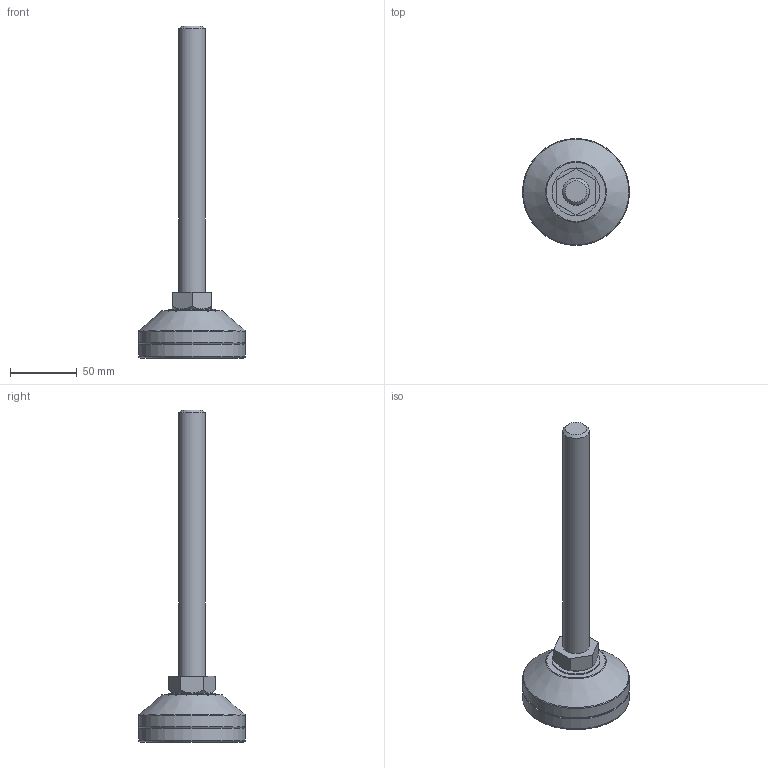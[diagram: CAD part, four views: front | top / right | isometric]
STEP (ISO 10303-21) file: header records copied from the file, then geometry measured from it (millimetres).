
FILE_DESCRIPTION(/* description */ (''),/* implementation_level */ '2;1');
FILE_NAME(/* name */ 'D:\조절자\FR\FR-M20-200L.stp',/* time_stamp */ '2016-03-14T14:36:41+09:00',/* author */ ('GS-DT-1-001'),/* organization */ (''),/* preprocessor_version */ 'ST-DEVELOPER v15.6',/* originating_system */ 'Autodesk Inventor LT ',/* authorisation */ '');
FILE_SCHEMA (('AUTOMOTIVE_DESIGN { 1 0 10303 214 3 1 1 }'));
Length unit declared in the file: millimetre
Products named in the file (1): FR-M20-200L
Bounding box: 80.4 x 80.4 x 249.5 mm (x, y, z)
Volume: 214725 mm3; surface area: 50765.6 mm2
Topology: 5 solids, 5 shells, 68 faces, 118 edges, 72 vertices
Faces by surface type: plane 28, torus 15, cylinder 15, cone 10
Full cylindrical faces by diameter (mm): 6.912 x1, 8 x1, 8.2 x1, 8.3 x1, 16 x1, 20 x1, 30 x1, 36 x1, 50 x1, 57 x1, 61 x1, 71 x1, 75 x1, 80 x1, 80.4 x1
Entity records: 1424 total; most frequent: DIRECTION 266, CARTESIAN_POINT 227, ORIENTED_EDGE 152, AXIS2_PLACEMENT_3D 127, EDGE_LOOP 124, EDGE_CURVE 76, VERTEX_POINT 70, FACE_OUTER_BOUND 68
